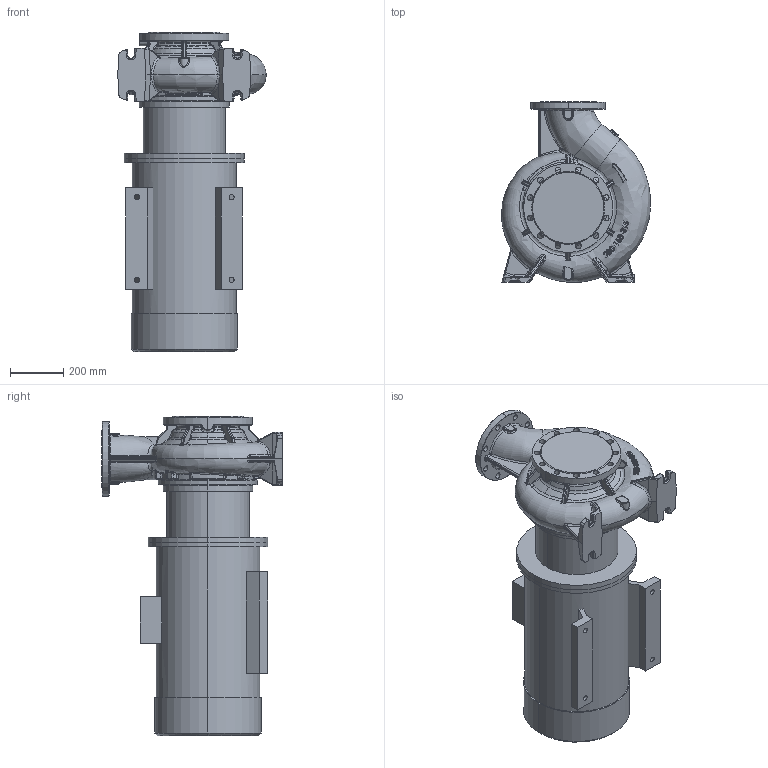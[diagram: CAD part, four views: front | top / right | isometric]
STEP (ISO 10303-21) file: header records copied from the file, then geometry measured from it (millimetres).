
FILE_DESCRIPTION (( 'STEP AP214' ), '1' );
FILE_NAME ('KRM 200-150-315-4-45.STEP', '2026-04-17T11:53:19', ( '' ), ( '' ), 'SwSTEP 2.0', 'SolidWorks 2016', '' );
FILE_SCHEMA (( 'AUTOMOTIVE_DESIGN' ));
Length unit declared in the file: millimetre
Products named in the file (1): KRM 200-150-315-4-45
Bounding box: 560.1 x 680 x 1200.8 mm (x, y, z)
Volume: 157708816.4 mm3; surface area: 3604241.6 mm2
Topology: 16 solids, 16 shells, 1427 faces, 3464 edges, 2032 vertices
Faces by surface type: bspline 605, cylinder 320, plane 258, torus 124, cone 76, sphere 44
Entity records: 99579 total; most frequent: CARTESIAN_POINT 55063, ORIENTED_EDGE 6822, DIRECTION 4885, EDGE_CURVE 3411, VERTEX_POINT 2032, AXIS2_PLACEMENT_3D 2019, EDGE_LOOP 1499, UNCERTAINTY_MEASURE_WITH_UNIT 1445
